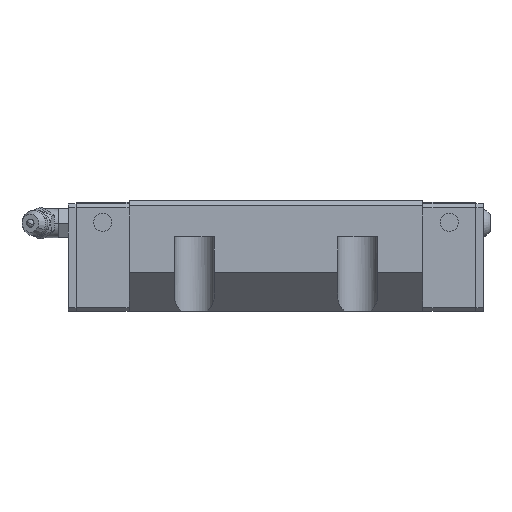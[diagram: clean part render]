
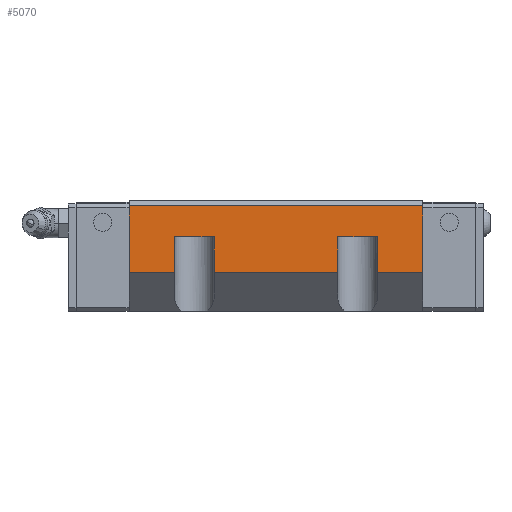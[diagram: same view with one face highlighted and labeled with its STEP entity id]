
A CAD part, top view. The second image highlights one B-rep face of the part: STEP entity #5070.
In plain terms, the highlighted planar face has unit normal (0, 0, 1).
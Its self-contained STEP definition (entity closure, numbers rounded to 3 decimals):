
#208 = DIRECTION ( 'NONE',  ( 1., 0., 0. ) ) ;
#223 = VECTOR ( 'NONE', #208, 1000. ) ;
#314 = DIRECTION ( 'NONE',  ( -1., 0., 0. ) ) ;
#392 = ORIENTED_EDGE ( 'NONE', *, *, #8764, .T. ) ;
#600 = EDGE_CURVE ( 'NONE', #1785, #2686, #643, .T. ) ;
#643 = LINE ( 'NONE', #9188, #9396 ) ;
#651 = VECTOR ( 'NONE', #5417, 1000. ) ;
#684 = LINE ( 'NONE', #9311, #5579 ) ;
#829 = VERTEX_POINT ( 'NONE', #9838 ) ;
#845 = CARTESIAN_POINT ( 'NONE',  ( 28., -7.438, 35. ) ) ;
#988 = EDGE_CURVE ( 'NONE', #9850, #5093, #684, .T. ) ;
#1028 = EDGE_CURVE ( 'NONE', #829, #9405, #8539, .T. ) ;
#1253 = DIRECTION ( 'NONE',  ( 1., 0., 0. ) ) ;
#1362 = VERTEX_POINT ( 'NONE', #4331 ) ;
#1762 = VECTOR ( 'NONE', #2370, 1000. ) ;
#1785 = VERTEX_POINT ( 'NONE', #4480 ) ;
#1799 = EDGE_CURVE ( 'NONE', #9852, #1362, #7045, .T. ) ;
#1870 = CARTESIAN_POINT ( 'NONE',  ( 17., 2.4, 35. ) ) ;
#1878 = ORIENTED_EDGE ( 'NONE', *, *, #6726, .T. ) ;
#2208 = CARTESIAN_POINT ( 'NONE',  ( -40.5, 10.9, 35. ) ) ;
#2229 = VECTOR ( 'NONE', #3093, 1000. ) ;
#2370 = DIRECTION ( 'NONE',  ( 1., 0., 0. ) ) ;
#2383 = CARTESIAN_POINT ( 'NONE',  ( 28., -7.438, 35. ) ) ;
#2516 = CARTESIAN_POINT ( 'NONE',  ( 28., 2.4, 35. ) ) ;
#2537 = ORIENTED_EDGE ( 'NONE', *, *, #1028, .T. ) ;
#2561 = CARTESIAN_POINT ( 'NONE',  ( 17., 2.4, 35. ) ) ;
#2686 = VERTEX_POINT ( 'NONE', #6722 ) ;
#2924 = CARTESIAN_POINT ( 'NONE',  ( 28., -7.438, 35. ) ) ;
#2954 = EDGE_CURVE ( 'NONE', #1785, #6719, #3636, .T. ) ;
#2977 = CARTESIAN_POINT ( 'NONE',  ( -40.5, -7.438, 35. ) ) ;
#3093 = DIRECTION ( 'NONE',  ( 0., 1., 0. ) ) ;
#3227 = PLANE ( 'NONE',  #8573 ) ;
#3267 = EDGE_CURVE ( 'NONE', #9850, #9852, #4052, .T. ) ;
#3381 = VECTOR ( 'NONE', #314, 1000. ) ;
#3412 = ORIENTED_EDGE ( 'NONE', *, *, #8406, .F. ) ;
#3636 = LINE ( 'NONE', #6778, #4584 ) ;
#3877 = DIRECTION ( 'NONE',  ( 0., -1., 0. ) ) ;
#3951 = CARTESIAN_POINT ( 'NONE',  ( 17., -7.438, 35. ) ) ;
#4052 = LINE ( 'NONE', #4787, #1762 ) ;
#4092 = LINE ( 'NONE', #2561, #223 ) ;
#4331 = CARTESIAN_POINT ( 'NONE',  ( 40.5, -7.438, 35. ) ) ;
#4425 = DIRECTION ( 'NONE',  ( 0., 1., 0. ) ) ;
#4480 = CARTESIAN_POINT ( 'NONE',  ( -17., -7.438, 35. ) ) ;
#4580 = VECTOR ( 'NONE', #6995, 1000. ) ;
#4584 = VECTOR ( 'NONE', #4425, 1000. ) ;
#4614 = CARTESIAN_POINT ( 'NONE',  ( -32.25, 10.9, 35. ) ) ;
#4787 = CARTESIAN_POINT ( 'NONE',  ( -40.5, 10.9, 35. ) ) ;
#4968 = EDGE_CURVE ( 'NONE', #6719, #9405, #9050, .T. ) ;
#5070 = ADVANCED_FACE ( 'NONE', ( #7705 ), #3227, .T. ) ;
#5093 = VERTEX_POINT ( 'NONE', #2977 ) ;
#5368 = CARTESIAN_POINT ( 'NONE',  ( 40.5, 10.9, 35. ) ) ;
#5388 = DIRECTION ( 'NONE',  ( 0., -1., 0. ) ) ;
#5417 = DIRECTION ( 'NONE',  ( 0., 1., 0. ) ) ;
#5579 = VECTOR ( 'NONE', #3877, 1000. ) ;
#5630 = ORIENTED_EDGE ( 'NONE', *, *, #600, .T. ) ;
#5673 = EDGE_LOOP ( 'NONE', ( #9373, #7302, #5630, #9693, #1878, #3412, #6542, #7284, #7990, #8876, #392, #2537 ) ) ;
#6044 = VERTEX_POINT ( 'NONE', #845 ) ;
#6192 = LINE ( 'NONE', #7936, #6329 ) ;
#6206 = LINE ( 'NONE', #2383, #7490 ) ;
#6329 = VECTOR ( 'NONE', #7036, 1000. ) ;
#6542 = ORIENTED_EDGE ( 'NONE', *, *, #7741, .T. ) ;
#6719 = VERTEX_POINT ( 'NONE', #8947 ) ;
#6722 = CARTESIAN_POINT ( 'NONE',  ( 17., -7.438, 35. ) ) ;
#6726 = EDGE_CURVE ( 'NONE', #7667, #7684, #4092, .T. ) ;
#6778 = CARTESIAN_POINT ( 'NONE',  ( -17., -7.438, 35. ) ) ;
#6853 = LINE ( 'NONE', #2924, #7319 ) ;
#6995 = DIRECTION ( 'NONE',  ( 0., -1., 0. ) ) ;
#7036 = DIRECTION ( 'NONE',  ( 1., 0., 0. ) ) ;
#7045 = LINE ( 'NONE', #5368, #4580 ) ;
#7284 = ORIENTED_EDGE ( 'NONE', *, *, #1799, .F. ) ;
#7302 = ORIENTED_EDGE ( 'NONE', *, *, #2954, .F. ) ;
#7319 = VECTOR ( 'NONE', #1253, 1000. ) ;
#7490 = VECTOR ( 'NONE', #9389, 1000. ) ;
#7667 = VERTEX_POINT ( 'NONE', #1870 ) ;
#7684 = VERTEX_POINT ( 'NONE', #2516 ) ;
#7705 = FACE_OUTER_BOUND ( 'NONE', #5673, .T. ) ;
#7741 = EDGE_CURVE ( 'NONE', #6044, #1362, #6853, .T. ) ;
#7790 = CARTESIAN_POINT ( 'NONE',  ( 40.5, 10.9, 35. ) ) ;
#7801 = CARTESIAN_POINT ( 'NONE',  ( -28., 2.4, 35. ) ) ;
#7834 = LINE ( 'NONE', #3951, #651 ) ;
#7915 = CARTESIAN_POINT ( 'NONE',  ( -28., -7.438, 35. ) ) ;
#7927 = DIRECTION ( 'NONE',  ( 1., 0., 0. ) ) ;
#7936 = CARTESIAN_POINT ( 'NONE',  ( -40.5, -7.438, 35. ) ) ;
#7990 = ORIENTED_EDGE ( 'NONE', *, *, #3267, .F. ) ;
#8324 = CARTESIAN_POINT ( 'NONE',  ( -17., 2.4, 35. ) ) ;
#8406 = EDGE_CURVE ( 'NONE', #6044, #7684, #6206, .T. ) ;
#8539 = LINE ( 'NONE', #7915, #2229 ) ;
#8573 = AXIS2_PLACEMENT_3D ( 'NONE', #4614, #8822, #5388 ) ;
#8706 = EDGE_CURVE ( 'NONE', #2686, #7667, #7834, .T. ) ;
#8764 = EDGE_CURVE ( 'NONE', #5093, #829, #6192, .T. ) ;
#8822 = DIRECTION ( 'NONE',  ( 0., 0., 1. ) ) ;
#8876 = ORIENTED_EDGE ( 'NONE', *, *, #988, .T. ) ;
#8947 = CARTESIAN_POINT ( 'NONE',  ( -17., 2.4, 35. ) ) ;
#9050 = LINE ( 'NONE', #8324, #3381 ) ;
#9188 = CARTESIAN_POINT ( 'NONE',  ( -17., -7.438, 35. ) ) ;
#9311 = CARTESIAN_POINT ( 'NONE',  ( -40.5, 10.9, 35. ) ) ;
#9373 = ORIENTED_EDGE ( 'NONE', *, *, #4968, .F. ) ;
#9389 = DIRECTION ( 'NONE',  ( 0., 1., 0. ) ) ;
#9396 = VECTOR ( 'NONE', #7927, 1000. ) ;
#9405 = VERTEX_POINT ( 'NONE', #7801 ) ;
#9693 = ORIENTED_EDGE ( 'NONE', *, *, #8706, .T. ) ;
#9838 = CARTESIAN_POINT ( 'NONE',  ( -28., -7.438, 35. ) ) ;
#9850 = VERTEX_POINT ( 'NONE', #2208 ) ;
#9852 = VERTEX_POINT ( 'NONE', #7790 ) ;
